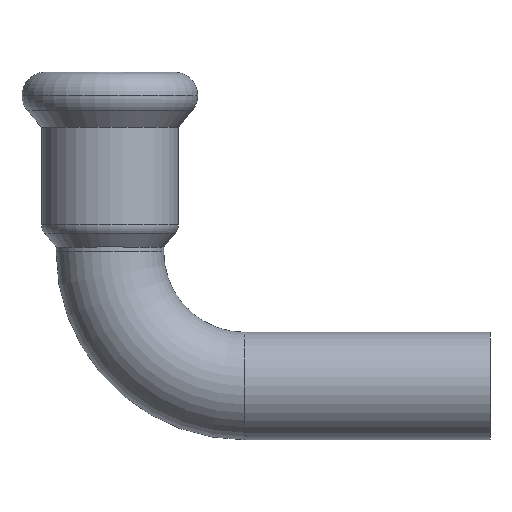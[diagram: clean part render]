
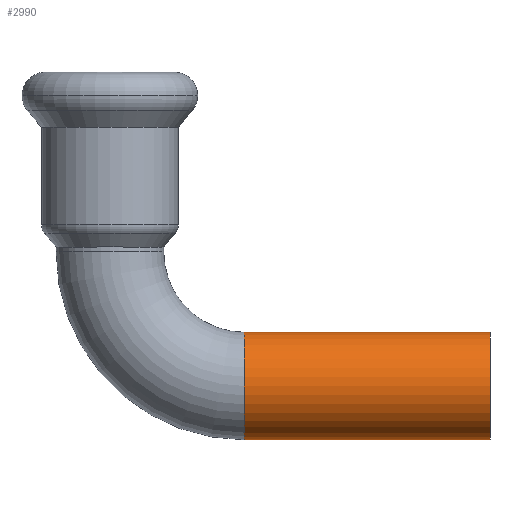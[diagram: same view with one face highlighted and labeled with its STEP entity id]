
A CAD part, top view. The second image highlights one B-rep face of the part: STEP entity #2990.
In plain terms, the highlighted cylindrical face has radius 6 mm (diameter 12 mm), a partial arc.
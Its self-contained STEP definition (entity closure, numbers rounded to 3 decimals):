
#2240=CARTESIAN_POINT('',(-83.071,21.24,0.));
#2250=DIRECTION('',(1.,0.,0.));
#2260=DIRECTION('',(0.,1.,0.));
#2270=AXIS2_PLACEMENT_3D('',#2240,#2250,#2260);
#2280=CIRCLE('',#2270,6.);
#2290=CARTESIAN_POINT('',(-83.071,21.24,6.));
#2300=VERTEX_POINT('',#2290);
#2310=CARTESIAN_POINT('',(-83.071,15.24,
0.));
#2320=VERTEX_POINT('',#2310);
#2330=EDGE_CURVE('',#2300,#2320,#2280,.T.);
#2580=CARTESIAN_POINT('',(-83.071,27.24,0.));
#2590=VERTEX_POINT('',#2580);
#2620=EDGE_CURVE('',#2590,#2300,#2280,.T.);
#2670=CARTESIAN_POINT('',(-83.071,21.24,0.));
#2680=DIRECTION('',(-1.,0.,0.));
#2690=DIRECTION('',(0.,1.,0.));
#2700=AXIS2_PLACEMENT_3D('',#2670,#2680,#2690);
#2710=CYLINDRICAL_SURFACE('',#2700,6.);
#2720=CARTESIAN_POINT('',(-83.071,15.24,
0.));
#2730=DIRECTION('',(-1.,0.,0.));
#2740=VECTOR('',#2730,1.);
#2750=LINE('',#2720,#2740);
#2760=CARTESIAN_POINT('',(-55.671,15.24,
0.));
#2770=VERTEX_POINT('',#2760);
#2780=EDGE_CURVE('',#2770,#2320,#2750,.T.);
#2790=ORIENTED_EDGE('',*,*,#2780,.F.);
#2800=ORIENTED_EDGE('',*,*,#2330,.T.);
#2810=ORIENTED_EDGE('',*,*,#2620,.T.);
#2820=CARTESIAN_POINT('',(-83.071,27.24,0.));
#2830=DIRECTION('',(-1.,0.,0.));
#2840=VECTOR('',#2830,1.);
#2850=LINE('',#2820,#2840);
#2860=CARTESIAN_POINT('',(-55.671,27.24,0.));
#2870=VERTEX_POINT('',#2860);
#2880=EDGE_CURVE('',#2870,#2590,#2850,.T.);
#2890=ORIENTED_EDGE('',*,*,#2880,.T.);
#2900=CARTESIAN_POINT('',(-55.671,21.24,0.));
#2910=DIRECTION('',(-1.,0.,0.));
#2920=DIRECTION('',(0.,1.,0.));
#2930=AXIS2_PLACEMENT_3D('',#2900,#2910,#2920);
#2940=CIRCLE('',#2930,6.);
#2950=EDGE_CURVE('',#2770,#2870,#2940,.T.);
#2960=ORIENTED_EDGE('',*,*,#2950,.T.);
#2970=EDGE_LOOP('',(#2960,#2890,#2810,#2800,#2790));
#2980=FACE_OUTER_BOUND('',#2970,.T.);
#2990=ADVANCED_FACE('',(#2980),#2710,.T.);
